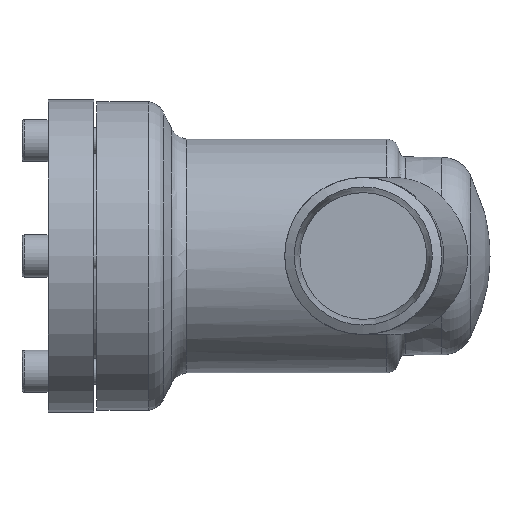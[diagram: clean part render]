
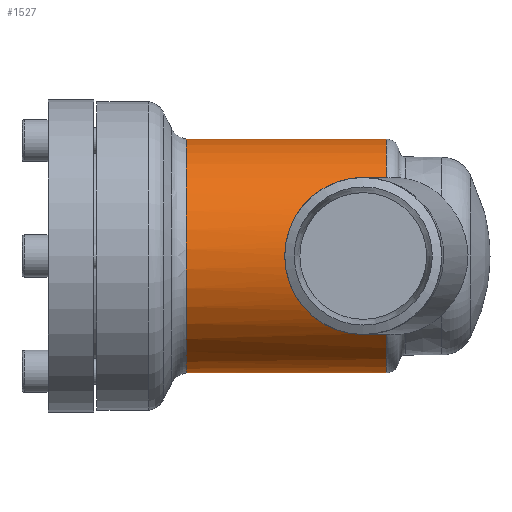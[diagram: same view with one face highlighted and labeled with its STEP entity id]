
A CAD part, left-side view. The second image highlights one B-rep face of the part: STEP entity #1527.
In plain terms, the highlighted cylindrical face has radius 36 mm (diameter 72 mm), a full revolution.
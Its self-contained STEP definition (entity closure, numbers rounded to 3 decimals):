
#783=CARTESIAN_POINT('',(-26.705,34.0,24.142));
#784=VERTEX_POINT('',#783);
#800=CARTESIAN_POINT('',(-26.705,34.0,-24.142));
#801=VERTEX_POINT('',#800);
#802=CARTESIAN_POINT('',(-26.705,34.0,-24.142));
#803=CARTESIAN_POINT('',(-26.739,35.491,-24.104));
#804=CARTESIAN_POINT('',(-26.896,36.994,-23.933));
#805=CARTESIAN_POINT('',(-27.449,40.17,-23.297));
#806=CARTESIAN_POINT('',(-27.876,41.836,-22.795));
#807=CARTESIAN_POINT('',(-28.882,45.026,-21.506));
#808=CARTESIAN_POINT('',(-29.46,46.551,-20.719));
#809=CARTESIAN_POINT('',(-30.648,49.389,-18.917));
#810=CARTESIAN_POINT('',(-31.258,50.7,-17.902));
#811=CARTESIAN_POINT('',(-32.364,52.958,-15.807));
#812=CARTESIAN_POINT('',(-32.906,54.005,-14.663));
#813=CARTESIAN_POINT('',(-33.917,55.89,-12.144));
#814=CARTESIAN_POINT('',(-34.385,56.728,-10.769));
#815=CARTESIAN_POINT('',(-35.164,58.101,-7.859));
#816=CARTESIAN_POINT('',(-35.476,58.636,-6.32));
#817=CARTESIAN_POINT('',(-35.894,59.35,-3.178));
#818=CARTESIAN_POINT('',(-36.0,59.527,-1.575));
#819=CARTESIAN_POINT('',(-36.0,59.527,1.575));
#820=CARTESIAN_POINT('',(-35.894,59.35,3.178));
#821=CARTESIAN_POINT('',(-35.476,58.636,6.32));
#822=CARTESIAN_POINT('',(-35.164,58.101,7.859));
#823=CARTESIAN_POINT('',(-34.385,56.728,10.769));
#824=CARTESIAN_POINT('',(-33.917,55.89,12.144));
#825=CARTESIAN_POINT('',(-32.906,54.005,14.663));
#826=CARTESIAN_POINT('',(-32.364,52.958,15.807));
#827=CARTESIAN_POINT('',(-31.258,50.7,17.902));
#828=CARTESIAN_POINT('',(-30.648,49.389,18.917));
#829=CARTESIAN_POINT('',(-29.46,46.551,20.719));
#830=CARTESIAN_POINT('',(-28.882,45.026,21.506));
#831=CARTESIAN_POINT('',(-27.876,41.836,22.795));
#832=CARTESIAN_POINT('',(-27.449,40.17,23.297));
#833=CARTESIAN_POINT('',(-26.896,36.994,23.933));
#834=CARTESIAN_POINT('',(-26.739,35.491,24.104));
#835=CARTESIAN_POINT('',(-26.705,34.0,24.142));
#836=B_SPLINE_CURVE_WITH_KNOTS('',3,(#802,#803,#804,#805,#806,#807,#808,#809,#810,#811,#812,#813,#814,#815,#816,#817,#818,#819,#820,#821,#822,#823,#824,#825,#826,#827,#828,#829,#830,#831,#832,#833,#834,#835),.UNSPECIFIED.,.F.,.U.,(4,2,2,2,2,2,2,2,2,2,2,2,2,2,2,2,4),(0.063,0.509,1.019,1.528,2.037,2.51,2.982,3.455,3.927,4.4,4.872,5.345,5.817,6.326,6.836,7.345,7.791),.UNSPECIFIED.);
#837=EDGE_CURVE('',#801,#784,#836,.T.);
#978=CARTESIAN_POINT('',(31.733,95.5,-17.001));
#979=VERTEX_POINT('',#978);
#980=CARTESIAN_POINT('',(31.733,95.5,17.001));
#981=VERTEX_POINT('',#980);
#982=CARTESIAN_POINT('',(31.733,95.5,-17.001));
#983=CARTESIAN_POINT('',(31.709,95.462,-17.046));
#984=CARTESIAN_POINT('',(31.685,95.424,-17.09));
#985=CARTESIAN_POINT('',(31.025,94.376,-18.309));
#986=CARTESIAN_POINT('',(30.355,93.196,-19.386));
#987=CARTESIAN_POINT('',(29.103,90.532,-21.219));
#988=CARTESIAN_POINT('',(28.524,89.047,-21.975));
#989=CARTESIAN_POINT('',(27.593,85.876,-23.134));
#990=CARTESIAN_POINT('',(27.24,84.185,-23.539));
#991=CARTESIAN_POINT('',(26.793,80.751,-24.047));
#992=CARTESIAN_POINT('',(26.698,79.01,-24.15));
#993=CARTESIAN_POINT('',(26.698,74.831,-24.15));
#994=CARTESIAN_POINT('',(26.906,72.266,-23.924));
#995=CARTESIAN_POINT('',(27.608,67.13,-23.111));
#996=CARTESIAN_POINT('',(28.1,64.559,-22.522));
#997=CARTESIAN_POINT('',(29.806,57.017,-20.277));
#998=CARTESIAN_POINT('',(31.237,52.22,-18.144));
#999=CARTESIAN_POINT('',(33.346,45.63,-13.702));
#1000=CARTESIAN_POINT('',(34.227,43.04,-11.482));
#1001=CARTESIAN_POINT('',(35.225,40.178,-7.551));
#1002=CARTESIAN_POINT('',(35.504,39.392,-6.141));
#1003=CARTESIAN_POINT('',(35.892,38.305,-3.169));
#1004=CARTESIAN_POINT('',(36.0,38.004,-1.607));
#1005=CARTESIAN_POINT('',(36.0,38.004,1.607));
#1006=CARTESIAN_POINT('',(35.892,38.305,3.169));
#1007=CARTESIAN_POINT('',(35.504,39.392,6.141));
#1008=CARTESIAN_POINT('',(35.225,40.178,7.551));
#1009=CARTESIAN_POINT('',(34.227,43.04,11.482));
#1010=CARTESIAN_POINT('',(33.346,45.63,13.702));
#1011=CARTESIAN_POINT('',(31.237,52.22,18.144));
#1012=CARTESIAN_POINT('',(29.806,57.017,20.277));
#1013=CARTESIAN_POINT('',(28.1,64.559,22.522));
#1014=CARTESIAN_POINT('',(27.608,67.13,23.111));
#1015=CARTESIAN_POINT('',(26.906,72.266,23.924));
#1016=CARTESIAN_POINT('',(26.698,74.831,24.15));
#1017=CARTESIAN_POINT('',(26.698,77.335,24.15));
#1018=CARTESIAN_POINT('',(26.698,79.01,24.15));
#1019=CARTESIAN_POINT('',(26.793,80.751,24.047));
#1020=CARTESIAN_POINT('',(27.24,84.185,23.539));
#1021=CARTESIAN_POINT('',(27.593,85.876,23.134));
#1022=CARTESIAN_POINT('',(28.524,89.047,21.975));
#1023=CARTESIAN_POINT('',(29.103,90.532,21.219));
#1024=CARTESIAN_POINT('',(30.355,93.196,19.386));
#1025=CARTESIAN_POINT('',(31.025,94.376,18.309));
#1026=CARTESIAN_POINT('',(31.685,95.424,17.09));
#1027=CARTESIAN_POINT('',(31.709,95.462,17.046));
#1028=CARTESIAN_POINT('',(31.733,95.5,17.001));
#1029=B_SPLINE_CURVE_WITH_KNOTS('',3,(#982,#983,#984,#985,#986,#987,#988,#989,#990,#991,#992,#993,#994,#995,#996,#997,#998,#999,#1000,#1001,#1002,#1003,#1004,#1005,#1006,#1007,#1008,#1009,#1010,#1011,#1012,#1013,#1014,#1015,#1016,#1017,#1018,#1019,#1020,#1021,#1022,#1023,#1024,#1025,#1026,#1027,#1028),.UNSPECIFIED.,.F.,.U.,(4,2,2,2,2,2,2,2,2,2,2,2,2,2,2,2,2,3,2,2,2,2,4),(-11.895,-11.876,-11.374,-10.871,-10.368,-9.866,-9.115,-8.364,-6.862,-5.897,-5.415,-4.933,-4.451,-3.969,-3.004,-1.502,-0.751,0.0,0.503,1.005,1.508,2.01,2.029),.UNSPECIFIED.);
#1030=EDGE_CURVE('',#979,#981,#1029,.T.);
#1502=CARTESIAN_POINT('',(0.0,64.75,0.0));
#1503=DIRECTION('',(0.0,1.0,0.0));
#1504=DIRECTION('',(-1.0,0.0,0.0));
#1505=AXIS2_PLACEMENT_3D('',#1502,#1503,#1504);
#1506=CYLINDRICAL_SURFACE('',#1505,36.0);
#1507=ORIENTED_EDGE('',*,*,#837,.T.);
#1508=CARTESIAN_POINT('',(0.0,34.0,0.0));
#1509=DIRECTION('',(0.0,1.0,0.0));
#1510=DIRECTION('',(-1.0,0.0,0.0));
#1511=AXIS2_PLACEMENT_3D('',#1508,#1509,#1510);
#1512=CIRCLE('',#1511,36.);
#1513=EDGE_CURVE('',#784,#801,#1512,.T.);
#1514=ORIENTED_EDGE('',*,*,#1513,.T.);
#1515=EDGE_LOOP('',(#1507,#1514));
#1516=FACE_OUTER_BOUND('',#1515,.T.);
#1517=ORIENTED_EDGE('',*,*,#1030,.T.);
#1518=CARTESIAN_POINT('',(0.0,95.5,0.0));
#1519=DIRECTION('',(0.0,1.0,0.0));
#1520=DIRECTION('',(-1.0,0.0,0.0));
#1521=AXIS2_PLACEMENT_3D('',#1518,#1519,#1520);
#1522=CIRCLE('',#1521,36.);
#1523=EDGE_CURVE('',#979,#981,#1522,.T.);
#1524=ORIENTED_EDGE('',*,*,#1523,.F.);
#1525=EDGE_LOOP('',(#1517,#1524));
#1526=FACE_BOUND('',#1525,.T.);
#1527=ADVANCED_FACE('',(#1516,#1526),#1506,.T.);
